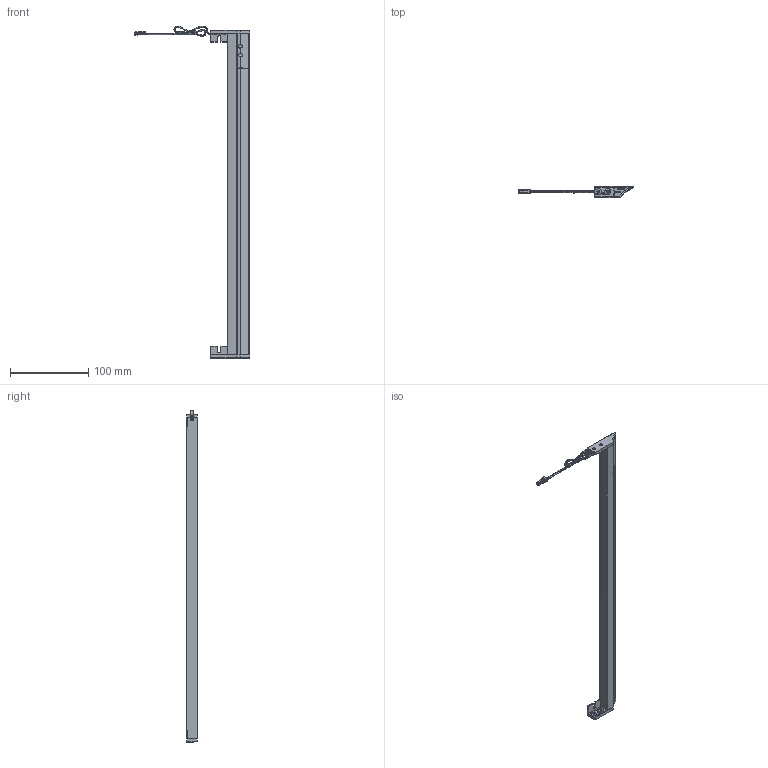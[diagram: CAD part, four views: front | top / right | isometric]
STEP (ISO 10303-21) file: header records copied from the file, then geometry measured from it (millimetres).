
FILE_DESCRIPTION (( 'STEP AP203' ), '1' );
FILE_NAME ('InnoLine_24.STEP', '2024-12-02T07:42:58', ( '' ), ( '' ), 'SwSTEP 2.0', 'SolidWorks 2023', '' );
FILE_SCHEMA (( 'CONFIG_CONTROL_DESIGN' ));
Length unit declared in the file: millimetre
Products named in the file (11): 4725431_pdm_Wicklung; InnoLine_24; 34320xx_pcb; 1997701_pdm; 1996001_pdm; 1997901_Endkappe_links_pdm; 1997801_pdm; 1995901_pdm; 4725431_pdm; 1998001_Endkappe_rechts_pdm; 4725431_Leitung_pdm_Wicklung
Assembly tree (16 placements, depth 3):
  InnoLine_24
    1995901_pdm
    1996001_pdm
    4725431_pdm_Wicklung
      1997701_pdm
      4725431_pdm
      1997801_pdm
      4725431_Leitung_pdm_Wicklung
    34320xx_pcb  x7
    1998001_Endkappe_rechts_pdm
    1997901_Endkappe_links_pdm
Bounding box: 147.1 x 14 x 423.52 mm (x, y, z)
Volume: 48032.6 mm3; surface area: 83975.2 mm2
Topology: 68 solids, 68 shells, 5096 faces, 13082 edges, 8450 vertices
Faces by surface type: plane 2695, bspline 1148, cylinder 1032, torus 89, sphere 69, cone 63
Entity records: 118700 total; most frequent: CARTESIAN_POINT 54819, ORIENTED_EDGE 14020, DIRECTION 11244, EDGE_CURVE 7010, VERTEX_POINT 4454, VECTOR 4260, LINE 4260, AXIS2_PLACEMENT_3D 3492
